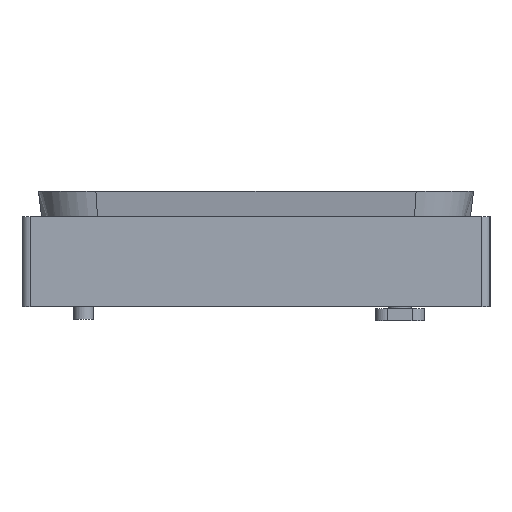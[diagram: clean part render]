
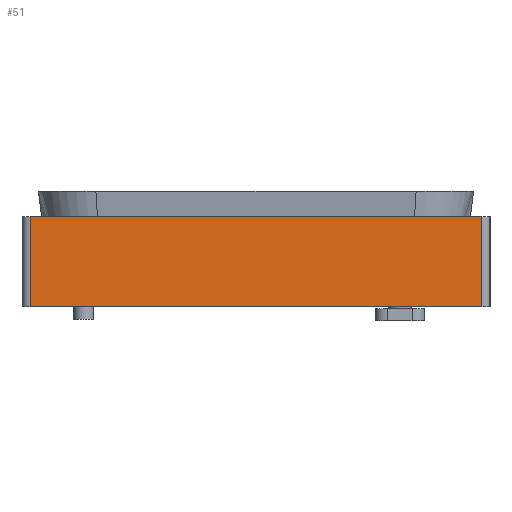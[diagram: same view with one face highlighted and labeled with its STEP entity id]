
A CAD part, left-side view. The second image highlights one B-rep face of the part: STEP entity #51.
In plain terms, the highlighted planar face has unit normal (-1, 0, 0).
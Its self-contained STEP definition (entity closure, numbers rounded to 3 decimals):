
#51 = ADVANCED_FACE('',(#52),#66,.T.);
#52 = FACE_BOUND('',#53,.T.);
#53 = EDGE_LOOP('',(#54,#89,#117,#145));
#54 = ORIENTED_EDGE('',*,*,#55,.T.);
#55 = EDGE_CURVE('',#56,#58,#60,.T.);
#56 = VERTEX_POINT('',#57);
#57 = CARTESIAN_POINT('',(-106.,-55.,3.4));
#58 = VERTEX_POINT('',#59);
#59 = CARTESIAN_POINT('',(-106.,-55.,25.4));
#60 = SURFACE_CURVE('',#61,(#65,#77),.PCURVE_S1.);
#61 = LINE('',#62,#63);
#62 = CARTESIAN_POINT('',(-106.,-55.,3.4));
#63 = VECTOR('',#64,1.);
#64 = DIRECTION('',(0.,0.,1.));
#65 = PCURVE('',#66,#71);
#66 = PLANE('',#67);
#67 = AXIS2_PLACEMENT_3D('',#68,#69,#70);
#68 = CARTESIAN_POINT('',(-106.,-55.,3.4));
#69 = DIRECTION('',(-1.,0.,0.));
#70 = DIRECTION('',(0.,1.,0.));
#71 = DEFINITIONAL_REPRESENTATION('',(#72),#76);
#72 = LINE('',#73,#74);
#73 = CARTESIAN_POINT('',(0.,0.));
#74 = VECTOR('',#75,1.);
#75 = DIRECTION('',(0.,-1.));
#76 = ( GEOMETRIC_REPRESENTATION_CONTEXT(2) 
PARAMETRIC_REPRESENTATION_CONTEXT() REPRESENTATION_CONTEXT('2D SPACE',''
  ) );
#77 = PCURVE('',#78,#83);
#78 = CYLINDRICAL_SURFACE('',#79,2.);
#79 = AXIS2_PLACEMENT_3D('',#80,#81,#82);
#80 = CARTESIAN_POINT('',(-104.,-55.,3.4));
#81 = DIRECTION('',(0.,0.,-1.));
#82 = DIRECTION('',(-1.,0.,0.));
#83 = DEFINITIONAL_REPRESENTATION('',(#84),#88);
#84 = LINE('',#85,#86);
#85 = CARTESIAN_POINT('',(6.283,0.));
#86 = VECTOR('',#87,1.);
#87 = DIRECTION('',(0.,-1.));
#88 = ( GEOMETRIC_REPRESENTATION_CONTEXT(2) 
PARAMETRIC_REPRESENTATION_CONTEXT() REPRESENTATION_CONTEXT('2D SPACE',''
  ) );
#89 = ORIENTED_EDGE('',*,*,#90,.T.);
#90 = EDGE_CURVE('',#58,#91,#93,.T.);
#91 = VERTEX_POINT('',#92);
#92 = CARTESIAN_POINT('',(-106.,55.,25.4));
#93 = SURFACE_CURVE('',#94,(#98,#105),.PCURVE_S1.);
#94 = LINE('',#95,#96);
#95 = CARTESIAN_POINT('',(-106.,0.,25.4));
#96 = VECTOR('',#97,1.);
#97 = DIRECTION('',(0.,1.,0.));
#98 = PCURVE('',#66,#99);
#99 = DEFINITIONAL_REPRESENTATION('',(#100),#104);
#100 = LINE('',#101,#102);
#101 = CARTESIAN_POINT('',(55.,-22.));
#102 = VECTOR('',#103,1.);
#103 = DIRECTION('',(1.,0.));
#104 = ( GEOMETRIC_REPRESENTATION_CONTEXT(2) 
PARAMETRIC_REPRESENTATION_CONTEXT() REPRESENTATION_CONTEXT('2D SPACE',''
  ) );
#105 = PCURVE('',#106,#111);
#106 = PLANE('',#107);
#107 = AXIS2_PLACEMENT_3D('',#108,#109,#110);
#108 = CARTESIAN_POINT('',(-103.,0.,25.4));
#109 = DIRECTION('',(0.,0.,1.));
#110 = DIRECTION('',(1.,0.,-0.));
#111 = DEFINITIONAL_REPRESENTATION('',(#112),#116);
#112 = LINE('',#113,#114);
#113 = CARTESIAN_POINT('',(-3.,0.));
#114 = VECTOR('',#115,1.);
#115 = DIRECTION('',(0.,1.));
#116 = ( GEOMETRIC_REPRESENTATION_CONTEXT(2) 
PARAMETRIC_REPRESENTATION_CONTEXT() REPRESENTATION_CONTEXT('2D SPACE',''
  ) );
#117 = ORIENTED_EDGE('',*,*,#118,.F.);
#118 = EDGE_CURVE('',#119,#91,#121,.T.);
#119 = VERTEX_POINT('',#120);
#120 = CARTESIAN_POINT('',(-106.,55.,3.4));
#121 = SURFACE_CURVE('',#122,(#126,#133),.PCURVE_S1.);
#122 = LINE('',#123,#124);
#123 = CARTESIAN_POINT('',(-106.,55.,3.4));
#124 = VECTOR('',#125,1.);
#125 = DIRECTION('',(0.,0.,1.));
#126 = PCURVE('',#66,#127);
#127 = DEFINITIONAL_REPRESENTATION('',(#128),#132);
#128 = LINE('',#129,#130);
#129 = CARTESIAN_POINT('',(110.,0.));
#130 = VECTOR('',#131,1.);
#131 = DIRECTION('',(0.,-1.));
#132 = ( GEOMETRIC_REPRESENTATION_CONTEXT(2) 
PARAMETRIC_REPRESENTATION_CONTEXT() REPRESENTATION_CONTEXT('2D SPACE',''
  ) );
#133 = PCURVE('',#134,#139);
#134 = CYLINDRICAL_SURFACE('',#135,2.);
#135 = AXIS2_PLACEMENT_3D('',#136,#137,#138);
#136 = CARTESIAN_POINT('',(-104.,55.,3.4));
#137 = DIRECTION('',(0.,0.,-1.));
#138 = DIRECTION('',(-1.,0.,0.));
#139 = DEFINITIONAL_REPRESENTATION('',(#140),#144);
#140 = LINE('',#141,#142);
#141 = CARTESIAN_POINT('',(0.,0.));
#142 = VECTOR('',#143,1.);
#143 = DIRECTION('',(0.,-1.));
#144 = ( GEOMETRIC_REPRESENTATION_CONTEXT(2) 
PARAMETRIC_REPRESENTATION_CONTEXT() REPRESENTATION_CONTEXT('2D SPACE',''
  ) );
#145 = ORIENTED_EDGE('',*,*,#146,.F.);
#146 = EDGE_CURVE('',#56,#119,#147,.T.);
#147 = SURFACE_CURVE('',#148,(#152,#159),.PCURVE_S1.);
#148 = LINE('',#149,#150);
#149 = CARTESIAN_POINT('',(-106.,0.,3.4));
#150 = VECTOR('',#151,1.);
#151 = DIRECTION('',(0.,1.,0.));
#152 = PCURVE('',#66,#153);
#153 = DEFINITIONAL_REPRESENTATION('',(#154),#158);
#154 = LINE('',#155,#156);
#155 = CARTESIAN_POINT('',(55.,0.));
#156 = VECTOR('',#157,1.);
#157 = DIRECTION('',(1.,0.));
#158 = ( GEOMETRIC_REPRESENTATION_CONTEXT(2) 
PARAMETRIC_REPRESENTATION_CONTEXT() REPRESENTATION_CONTEXT('2D SPACE',''
  ) );
#159 = PCURVE('',#160,#165);
#160 = PLANE('',#161);
#161 = AXIS2_PLACEMENT_3D('',#162,#163,#164);
#162 = CARTESIAN_POINT('',(-103.,0.,3.4));
#163 = DIRECTION('',(0.,0.,1.));
#164 = DIRECTION('',(1.,0.,-0.));
#165 = DEFINITIONAL_REPRESENTATION('',(#166),#170);
#166 = LINE('',#167,#168);
#167 = CARTESIAN_POINT('',(-3.,0.));
#168 = VECTOR('',#169,1.);
#169 = DIRECTION('',(0.,1.));
#170 = ( GEOMETRIC_REPRESENTATION_CONTEXT(2) 
PARAMETRIC_REPRESENTATION_CONTEXT() REPRESENTATION_CONTEXT('2D SPACE',''
  ) );
